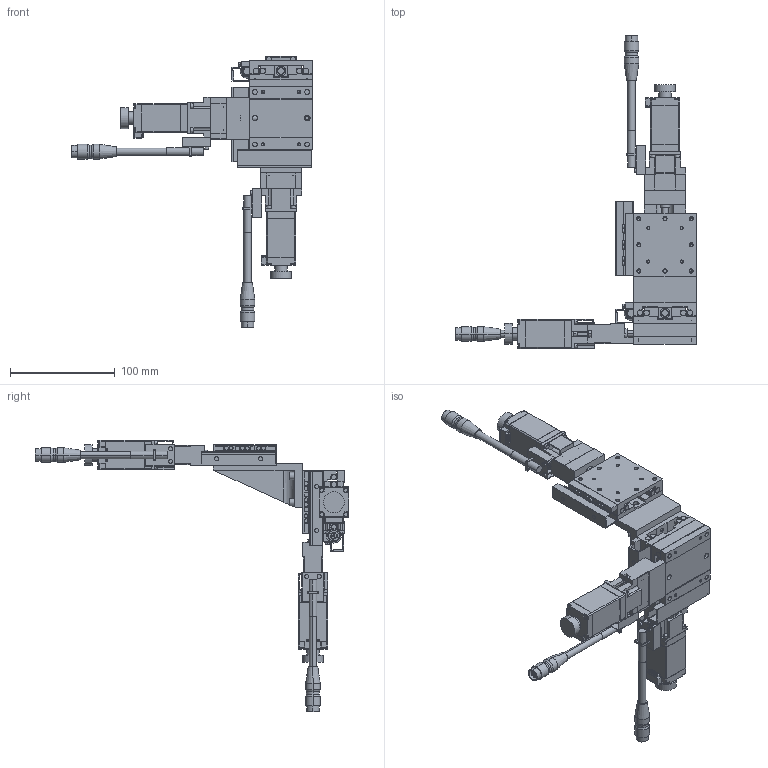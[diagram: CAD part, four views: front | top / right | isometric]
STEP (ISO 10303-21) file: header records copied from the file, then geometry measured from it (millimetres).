
FILE_DESCRIPTION(('STEP AP203'),'1');
FILE_NAME('C:/3D-Trans/3D_PMZG615T-L□-D4+240129.step','2024-03-14T04:54:16',(' '),(' '),'Spatial InterOp 3D',' ',' ');
FILE_SCHEMA(('CONFIG_CONTROL_DESIGN'));
Length unit declared in the file: millimetre
Products named in the file (19): 1; 2; 3; 4; 5; 6; 7; 8; 9; 10; 11; 12; 13; 14; 15; 16; 17; 18; 19
Bounding box: 230 x 299 x 259 mm (x, y, z)
Volume: 471523.5 mm3; surface area: 202474.4 mm2
Topology: 19 solids, 19 shells, 2258 faces, 5668 edges, 3609 vertices
Faces by surface type: plane 1289, cylinder 748, cone 218, extrusion 3
Entity records: 68815 total; most frequent: CARTESIAN_POINT 12460, DIRECTION 11882, ORIENTED_EDGE 11216, EDGE_CURVE 5608, AXIS2_PLACEMENT_3D 4039, VECTOR 3804, LINE 3801, VERTEX_POINT 3609
